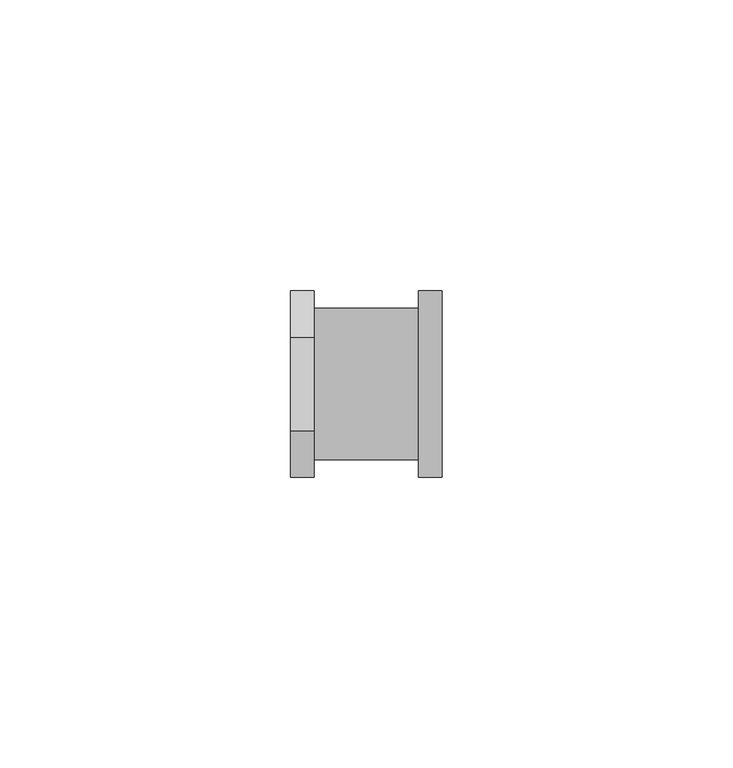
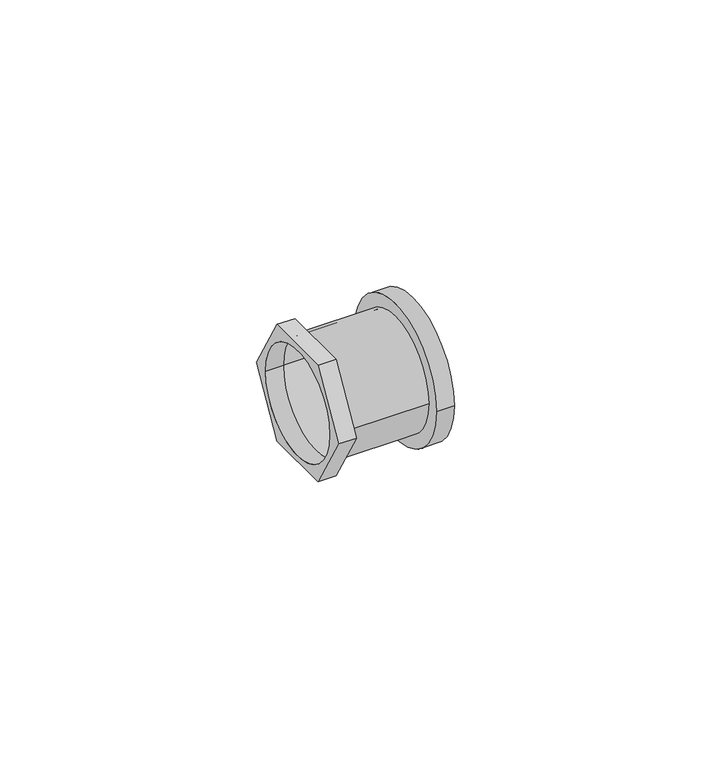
"""IFC4 building model written with IfcOpenShell, lengths in millimetres: pipe fitting geometry, БИР ПЕКС_НПР_Соединитель_Гайка накидная : Соединитель прямой с накидной гайкой."""

from ifc_helpers import new_model, si_unit, point, frame, origin, origin_2d, place, context, project, spatial, polyline, circle_curve, trimmed, segment, composite_curve, outline, extrude, source, transform, mapped, element, save


def pipe_fitting_95ed0b00(model_context):
    return source(origin(), model_context, "Body", "SweptSolid", [
        extrude(outline(polyline([(-8.0, -13.8564065), (-16.0, 0.0), (-8.0, 13.8564065), (8.0, 13.8564065), (16.0, 0.0), (8.0, -13.8564065), (-8.0, -13.8564065)]), holes=[composite_curve([segment(trimmed(circle_curve(origin_2d(), 12.5), [point((-12.5, 0.0))], [point((12.5, 0.0))], True, "CARTESIAN"), True, "CONTINUOUS"), segment(trimmed(circle_curve(origin_2d(), 12.5), [point((12.5, 0.0))], [point((-12.5, 0.0))], True, "CARTESIAN"), True, "CONTINUOUS")], self_intersect=False)]), frame((-13.0, 0.0, 0.0), z_axis=(1.0, 0.0, 0.0), x_axis=(0.0, 1.0, 0.0)), (0.0, 0.0, 1.0), 4.0),
        extrude(outline(composite_curve([segment(trimmed(circle_curve(origin_2d(), 13.0), [point((-13.0, 0.0))], [point((13.0, 0.0))], False, "CARTESIAN"), True, "CONTINUOUS"), segment(trimmed(circle_curve(origin_2d(), 13.0), [point((13.0, 0.0))], [point((-13.0, 0.0))], False, "CARTESIAN"), True, "CONTINUOUS")], self_intersect=False), holes=[composite_curve([segment(trimmed(circle_curve(origin_2d(), 12.5), [point((-12.5, 0.0))], [point((12.5, 0.0))], True, "CARTESIAN"), True, "CONTINUOUS"), segment(trimmed(circle_curve(origin_2d(), 12.5), [point((12.5, 0.0))], [point((-12.5, 0.0))], True, "CARTESIAN"), True, "CONTINUOUS")], self_intersect=False)]), frame((-9.0, 0.0, 0.0), z_axis=(1.0, 0.0, 0.0), x_axis=(0.0, 1.0, 0.0)), (0.0, 0.0, 1.0), 18.0),
        extrude(outline(composite_curve([segment(trimmed(circle_curve(origin_2d(), 16.0), [point((-16.0, 0.0))], [point((16.0, 0.0))], False, "CARTESIAN"), True, "CONTINUOUS"), segment(trimmed(circle_curve(origin_2d(), 16.0), [point((16.0, 0.0))], [point((-16.0, 0.0))], False, "CARTESIAN"), True, "CONTINUOUS")], self_intersect=False), holes=[composite_curve([segment(trimmed(circle_curve(origin_2d(), 12.5), [point((-12.5, 0.0))], [point((12.5, 0.0))], True, "CARTESIAN"), True, "CONTINUOUS"), segment(trimmed(circle_curve(origin_2d(), 12.5), [point((12.5, 0.0))], [point((-12.5, 0.0))], True, "CARTESIAN"), True, "CONTINUOUS")], self_intersect=False)]), frame((9.0, 0.0, 0.0), z_axis=(1.0, 0.0, 0.0), x_axis=(0.0, 1.0, 0.0)), (0.0, 0.0, 1.0), 4.0),
    ])


if __name__ == "__main__":
    model = new_model("IFC4")
    model_context = context("Model", 3, world=origin())
    ifc_project = project(units=[si_unit("LENGTHUNIT", "METRE", prefix="MILLI")], contexts=[model_context])
    site = spatial("IfcSite", under=ifc_project)
    building = spatial("IfcBuilding", under=site)
    placement = place(None, origin())
    pipe_fitting_shape = pipe_fitting_95ed0b00(model_context)
    element("IfcPipeFitting", 1, ObjectType="БИР ПЕКС_НПР_Соединитель_Гайка накидная : Соединитель прямой с накидной гайкой", at=placement, inside=building, context=model_context, shape_type="MappedRepresentation", body=[
        mapped(pipe_fitting_shape, transform((0.0, 0.0, 0.0), x_axis=(1.0, 0.0, 0.0), y_axis=(0.0, 1.0, 0.0), z_axis=(0.0, 0.0, 1.0))),
    ])
    save(model, "model.ifc")
